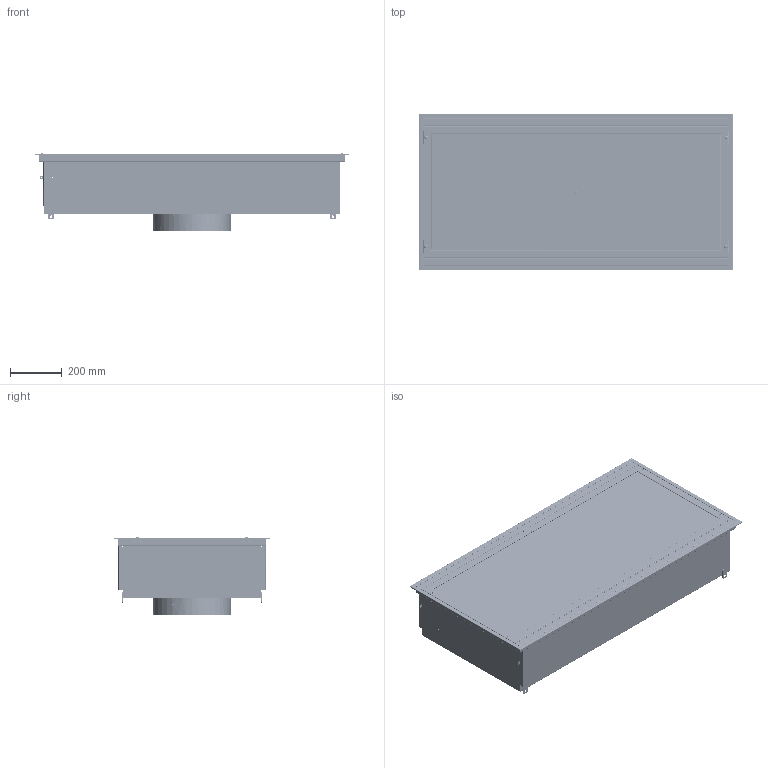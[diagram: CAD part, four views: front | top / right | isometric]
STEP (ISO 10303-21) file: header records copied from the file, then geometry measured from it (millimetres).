
FILE_DESCRIPTION (( 'STEP AP214' ), '1' );
FILE_NAME ('48 X 24_SSLFHFD_LED.STEP', '2025-07-25T15:17:28', ( '' ), ( '' ), 'SwSTEP 2.0', 'SolidWorks 2024', '' );
FILE_SCHEMA (( 'AUTOMOTIVE_DESIGN' ));
Length unit declared in the file: inch
Products named in the file (66): 060525-HFDs_H1P11_L01; 060525-HFDs_X6BE_L01; 060525-HFDs_H2G23_L01; 060525-HFDs_PLENUM MASTER_L01; 060525-HFDs_H2E1_L01_WELD CLIP; 40º BEVEL FRAME; 060525-HFDs_H1T2_L01; 060525-HFDs_FC3E-A4_L01; 060525-HFDs_H1B8_L01; 060525-HFDs_R2B1_L01; 060525-HFDs_FP1B20-A4_L01; 060525-HFDs_R5Z11_L01; 060525-HFDs_H2E5_L01; 060525-HFDs_C1C1C112_L01; 060525-HFDs_X6B2_L01; 48 X 24_SSLFHFD_LED; 060525-HFDs_H1L1_L01; 060525-HFDs_H2G12_L01; 060525-HFDs_X6BA1_L01; 060525-HFDs_FP1B20-A3_L01; 060525-HFDs_P1B1B_L01; 060525-HFDs_H1M8_L01_H1M8; 060525-HFDs_H1Z24_L01; 060525-HFDs_PERF SUB_L01; 060525-HFDs_BM5D_L01; 060525-HFDs_FP1B_L01; 060525-HFDs_H1D11_L01_91020A530; 060525-HFDs_K2A2_L01; 060525-HFDs_H1A2_L01; 060525-HFDs_PORT-SUB_L01; 060525-HFDs_SM3X4_L01; 060525-HFDs_FC3E-A1_L01; 060525-HFDs_H1E1_L01; 060525-HFDs_H1Z25_L01_LABEL; "CHALLENGE."; 060525-HFDs_H1E3_L01; 060525-HFDs_FP1B20-A2_L01; 060525-HFDs_H1B4_L01; 060525-HFDs_X6BD_L01; 060525-HFDs_H2E2_L01_WELD CLIP, BOB FRAME; 060525-HFDs_FC3E-A2_L01; 060525-HFDs_Light Module-SUB_L01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
Assembly tree (132 placements, depth 5):
  48 X 24_SSLFHFD_LED
    060525-HFDs_PLASTER SUB_L01
      060525-HFDs_FC3E_L01
        060525-HFDs_FC3E-A1_L01
        060525-HFDs_FC3E-A2_L01
        060525-HFDs_FC3E-A3_L01
        060525-HFDs_FC3E-A4_L01
        060525-HFDs_H2E2_L01_WELD CLIP, BOB FRAME  x4
        060525-HFDs_H2G12_L01  x4
        060525-HFDs_H1F1_L01_1_4 TURN SPRING  x4
        060525-HFDs_H2E11_L01_GUIDE, HEPA FILTER, SWING ARM  x6
        060525-HFDs_H2E12_L01_CLIP, HEPA FILTER, SWING ARM  x6
        060525-HFDs_H1V31_L01_WASHER, TEFLON: 0.50"OD x 0.25"ID x 0.025"th  x6
        060525-HFDs_H1Z25_L01_LABEL; "CHALLENGE."
        060525-HFDs_H1Z26_L01_LABEL; "CONCENTRATION"
      060525-HFDs_H1V20_L01  x2
      060525-HFDs_X6BD_L01  x2
      060525-HFDs_H1V10_L01_GROMMET - 0.387"ID; 1_2"HOLE; BLACK  x2
      060525-HFDs_Light Module-SUB_L01  x2
        060525-HFDs_X6BA1_L01
        060525-HFDs_X6BB_L01
        060525-HFDs_R5Z11_L01
        060525-HFDs_H1M8_L01_H1M8
        060525-HFDs_H1B9_L01
        060525-HFDs_X6B2_L01
        060525-HFDs_H1H40_L01
        060525-HFDs_H1D11_L01_91020A530
      060525-HFDs_PORT-SUB_L01  x2
        060525-HFDs_H1P11_L01
        060525-HFDs_H1T7_L01_9531K23
    060525-HFDs_FACE SUB_L01
      060525-HFDs_FP1B_L01
        060525-HFDs_FP1B20-A1_L01
        060525-HFDs_FP1B20-A2_L01
        060525-HFDs_FP1B20-A3_L01
        060525-HFDs_FP1B20-A4_L01
        060525-HFDs_H2E1_L01_WELD CLIP; 40º BEVEL FRAME  x4
        060525-HFDs_H1E1_L01  x4
        060525-HFDs_H1E2_L01  x4
        060525-HFDs_SAFETYCABLEASSEMBLY_L01  x2
          060525-HFDs_H1N2_L01
          060525-HFDs_H1E3_L01
        060525-HFDs_H1Z24_L01
    060525-HFDs_PERF SUB_L01
      060525-HFDs_H1T2_L01
      060525-HFDs_R2B1 SUB_L01
        060525-HFDs_R2B1_L01
    060525-HFDs_PLENUM MASTER_L01
      060525-HFDs_P1B1B SUB_L01
        060525-HFDs_P1B1B_L01
        060525-HFDs_H2E5_L01  x4
        060525-HFDs_X6BE_L01  x2
        060525-HFDs_H1V20_L01  x2
        060525-HFDs_H2G23_L01
    060525-HFDs_C1C1C112_L01
    060525-HFDs_SSRD_L01
      060525-HFDs_H1L1_L01  x4
      060525-HFDs_BM5D_L01  x2
      060525-HFDs_SM2X3_L01
      060525-HFDs_SM3X4_L01
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Bounding box: 1212.85 x 603.25 x 299.81 mm (x, y, z)
Volume: 2670694.5 mm3; surface area: 5987505.1 mm2
Topology: 180 solids, 180 shells, 9179 faces, 22719 edges, 14415 vertices
Faces by surface type: plane 5197, cylinder 2375, cone 740, torus 592, bspline 253, sphere 22
Entity records: 129643 total; most frequent: CARTESIAN_POINT 34253, ORIENTED_EDGE 19246, DIRECTION 18782, EDGE_CURVE 9623, VECTOR 6562, LINE 6562, VERTEX_POINT 6147, AXIS2_PLACEMENT_3D 6110
